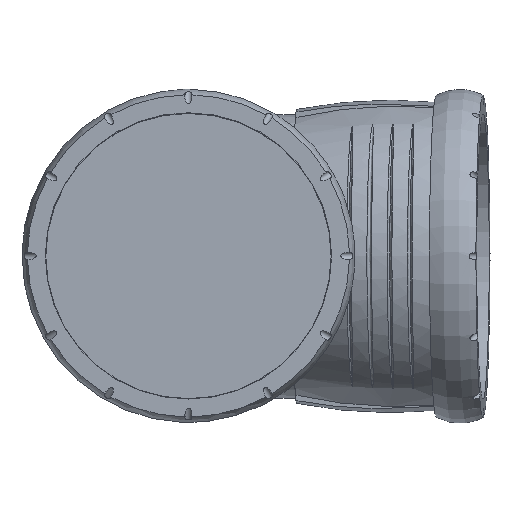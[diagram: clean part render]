
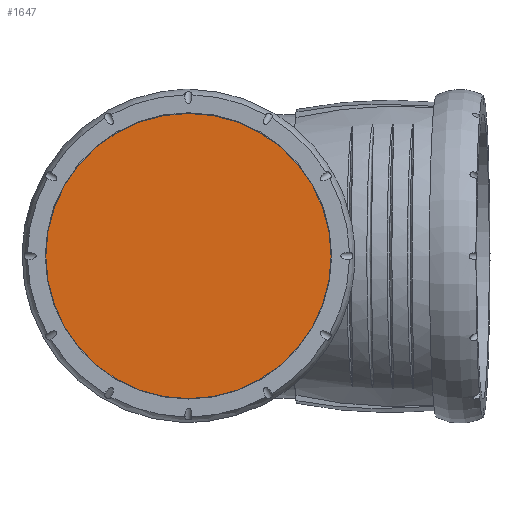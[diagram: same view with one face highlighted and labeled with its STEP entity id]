
A CAD part, top view. The second image highlights one B-rep face of the part: STEP entity #1647.
In plain terms, the highlighted planar face has unit normal (0, 0, 1).
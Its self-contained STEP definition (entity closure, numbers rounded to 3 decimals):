
#223=PLANE('',#1788);
#303=FACE_OUTER_BOUND('',#413,.T.);
#413=EDGE_LOOP('',(#1067));
#553=CIRCLE('',#1789,80.6);
#632=VERTEX_POINT('',#2374);
#810=EDGE_CURVE('',#632,#632,#553,.T.);
#1067=ORIENTED_EDGE('',*,*,#810,.T.);
#1647=ADVANCED_FACE('',(#303),#223,.T.);
#1788=AXIS2_PLACEMENT_3D('',#2373,#2005,#2006);
#1789=AXIS2_PLACEMENT_3D('',#2375,#2007,#2008);
#2005=DIRECTION('center_axis',(0.,0.,
1.));
#2006=DIRECTION('ref_axis',(0.,1.,0.));
#2007=DIRECTION('center_axis',(0.,0.,
1.));
#2008=DIRECTION('ref_axis',(0.,1.,0.));
#2373=CARTESIAN_POINT('Origin',(0.,0.,
257.65));
#2374=CARTESIAN_POINT('',(-80.6,0.,257.65));
#2375=CARTESIAN_POINT('Origin',(0.,0.,
257.65));
